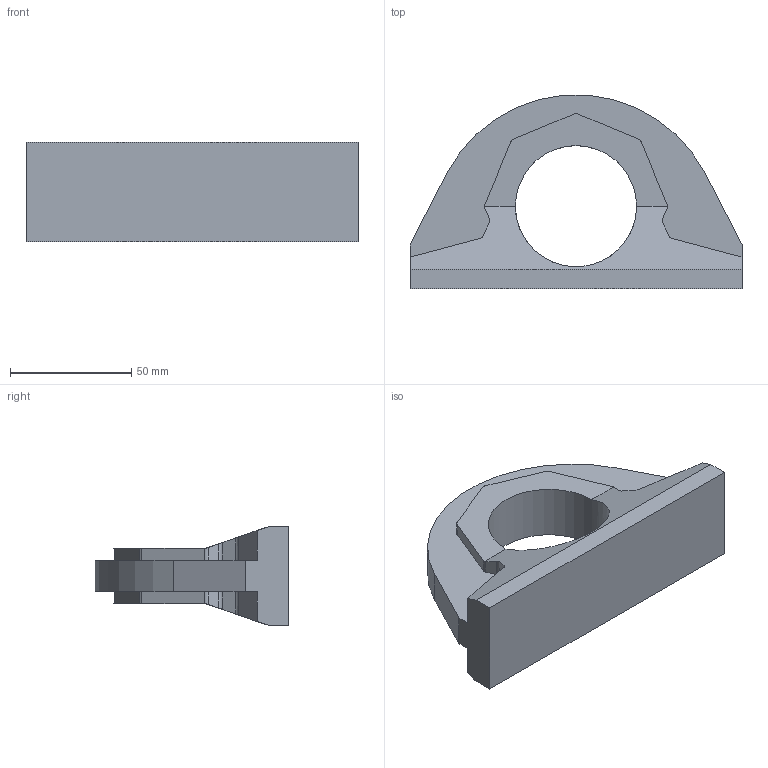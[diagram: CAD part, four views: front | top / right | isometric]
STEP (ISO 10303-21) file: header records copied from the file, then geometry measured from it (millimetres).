
FILE_DESCRIPTION(/* description */ ('STEP AP214'),/* implementation_level */ '2;1');
FILE_NAME(/* name */ 'Lifting point GN 589-137',/* time_stamp */ '2023-10-25T14:17:19+02:00',/* author */ ('License CC BY-ND 4.0'),/* organization */ ('CADENAS'),/* preprocessor_version */ 'ST-DEVELOPER v19.3',/* originating_system */ 'PARTsolutions',/* authorisation */ ' ');
FILE_SCHEMA (('AUTOMOTIVE_DESIGN {1 0 10303 214 3 1 1}'));
Length unit declared in the file: millimetre
Products named in the file (1): Lifting point GN 589-137
Bounding box: 137 x 79.79 x 41 mm (x, y, z)
Volume: 160611.2 mm3; surface area: 30076.3 mm2
Topology: 1 solids, 1 shells, 53 faces, 157 edges, 104 vertices
Faces by surface type: plane 33, cylinder 20
Full cylindrical faces by diameter (mm): 50 x1
Entity records: 1810 total; most frequent: CARTESIAN_POINT 314, ORIENTED_EDGE 312, DIRECTION 310, EDGE_CURVE 156, LINE 110, VECTOR 110, VERTEX_POINT 104, AXIS2_PLACEMENT_3D 100
